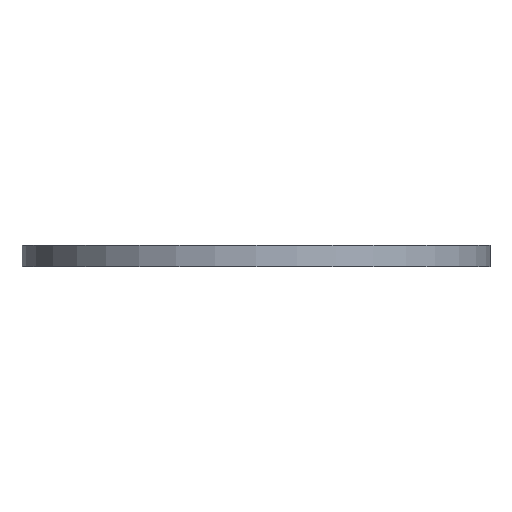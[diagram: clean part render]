
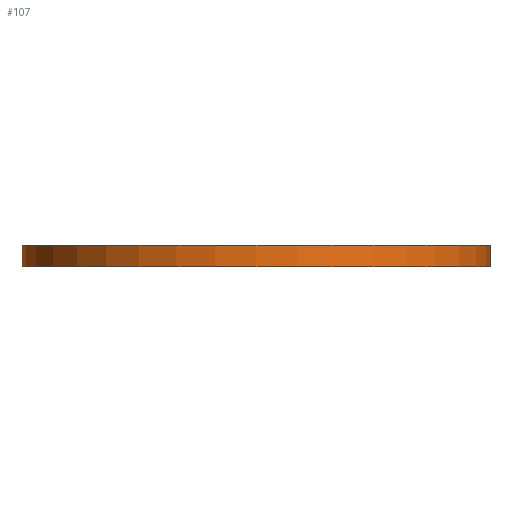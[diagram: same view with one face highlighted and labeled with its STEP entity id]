
A CAD part, front view. The second image highlights one B-rep face of the part: STEP entity #107.
In plain terms, the highlighted cylindrical face has radius 55 mm (diameter 110 mm), a partial arc.
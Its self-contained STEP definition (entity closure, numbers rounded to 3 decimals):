
#60 = VERTEX_POINT ( 'NONE', #609 ) ;
#104 = VERTEX_POINT ( 'NONE', #706 ) ;
#105 = ORIENTED_EDGE ( 'NONE', *, *, #108, .F. ) ;
#106 = VERTEX_POINT ( 'NONE', #676 ) ;
#107 = ADVANCED_FACE ( 'NONE', ( #701 ), #711, .T. ) ;
#108 = EDGE_CURVE ( 'NONE', #104, #153, #702, .T. ) ;
#113 = EDGE_CURVE ( 'NONE', #104, #106, #703, .T. ) ;
#114 = ORIENTED_EDGE ( 'NONE', *, *, #130, .T. ) ;
#126 = ORIENTED_EDGE ( 'NONE', *, *, #141, .F. ) ;
#130 = EDGE_CURVE ( 'NONE', #106, #60, #788, .T. ) ;
#133 = ORIENTED_EDGE ( 'NONE', *, *, #113, .T. ) ;
#136 = EDGE_LOOP ( 'NONE', ( #126, #105, #133, #114 ) ) ;
#141 = EDGE_CURVE ( 'NONE', #153, #60, #814, .T. ) ;
#153 = VERTEX_POINT ( 'NONE', #845 ) ;
#609 = CARTESIAN_POINT ( 'NONE',  ( 55., 0., 0. ) ) ;
#676 = CARTESIAN_POINT ( 'NONE',  ( -55., 0., 0. ) ) ;
#693 = CARTESIAN_POINT ( 'NONE',  ( 0., 0., 5. ) ) ;
#694 = AXIS2_PLACEMENT_3D ( 'NONE', #693, #699, #755 ) ;
#697 = DIRECTION ( 'NONE',  ( -1., 0., 0. ) ) ;
#698 = DIRECTION ( 'NONE',  ( 0., 0., -1. ) ) ;
#699 = DIRECTION ( 'NONE',  ( 0., 0., 1. ) ) ;
#701 = FACE_OUTER_BOUND ( 'NONE', #136, .T. ) ;
#702 = CIRCLE ( 'NONE', #694, 55. ) ;
#703 = LINE ( 'NONE', #742, #741 ) ;
#705 = CARTESIAN_POINT ( 'NONE',  ( 0., 0., 5. ) ) ;
#706 = CARTESIAN_POINT ( 'NONE',  ( -55., 0., 5. ) ) ;
#711 = CYLINDRICAL_SURFACE ( 'NONE', #716, 55. ) ;
#716 = AXIS2_PLACEMENT_3D ( 'NONE', #705, #698, #697 ) ;
#740 = DIRECTION ( 'NONE',  ( 0., 0., -1. ) ) ;
#741 = VECTOR ( 'NONE', #740, 1000. ) ;
#742 = CARTESIAN_POINT ( 'NONE',  ( -55., 0., 5. ) ) ;
#755 = DIRECTION ( 'NONE',  ( 1., 0., 0. ) ) ;
#775 = DIRECTION ( 'NONE',  ( 1., 0., 0. ) ) ;
#776 = DIRECTION ( 'NONE',  ( 0., 0., 1. ) ) ;
#777 = AXIS2_PLACEMENT_3D ( 'NONE', #782, #776, #775 ) ;
#782 = CARTESIAN_POINT ( 'NONE',  ( 0., 0., 0. ) ) ;
#788 = CIRCLE ( 'NONE', #777, 55. ) ;
#800 = DIRECTION ( 'NONE',  ( 0., 0., -1. ) ) ;
#809 = VECTOR ( 'NONE', #800, 1000. ) ;
#810 = CARTESIAN_POINT ( 'NONE',  ( 55., 0., 5. ) ) ;
#814 = LINE ( 'NONE', #810, #809 ) ;
#845 = CARTESIAN_POINT ( 'NONE',  ( 55., 0., 5. ) ) ;
